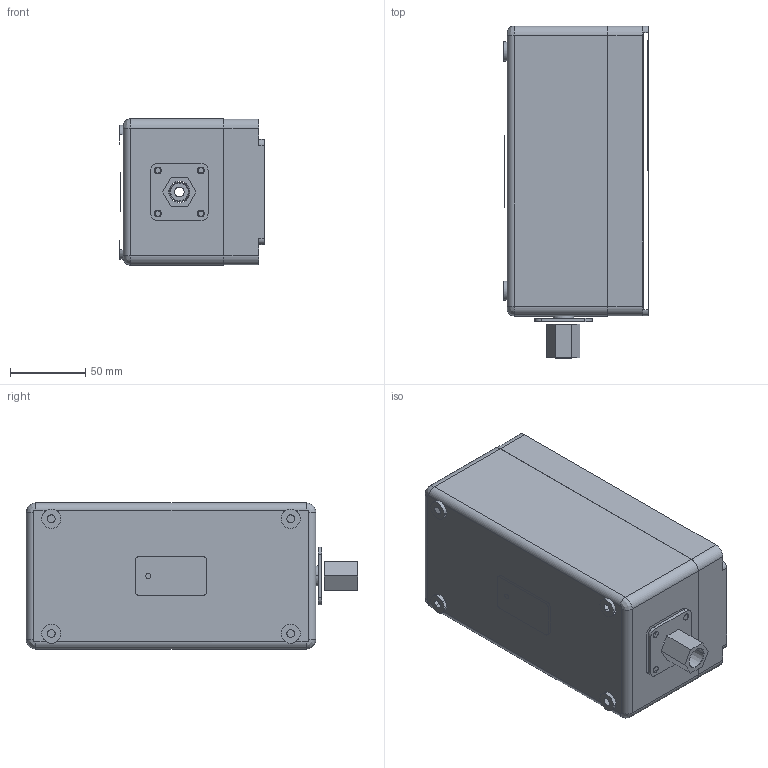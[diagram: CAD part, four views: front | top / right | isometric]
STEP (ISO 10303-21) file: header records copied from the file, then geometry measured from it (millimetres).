
FILE_DESCRIPTION((''),'2;1');
FILE_NAME('836-C7J','2017-11-13T',('MMoraws'),('Rockwell Automation'),'PRO/ENGINEER BY PARAMETRIC TECHNOLOGY CORPORATION, 2012480','PRO/ENGINEER BY PARAMETRIC TECHNOLOGY CORPORATION, 2012480','');
FILE_SCHEMA(('CONFIG_CONTROL_DESIGN'));
Length unit declared in the file: inch
Products named in the file (1): 836-C7J
Bounding box: 96.01 x 220.14 x 97.03 mm (x, y, z)
Surface area: 175509.3 mm2 (no closed solid volume)
Topology: 0 solids, 9 shells, 194 faces, 784 edges, 568 vertices
Faces by surface type: cylinder 94, plane 83, cone 8, torus 5, bspline 4
Entity records: 8456 total; most frequent: CARTESIAN_POINT 1680, DIRECTION 1522, ORIENTED_EDGE 1214, EDGE_CURVE 784, VERTEX_POINT 568, AXIS2_PLACEMENT_3D 558, VECTOR 406, LINE 406
